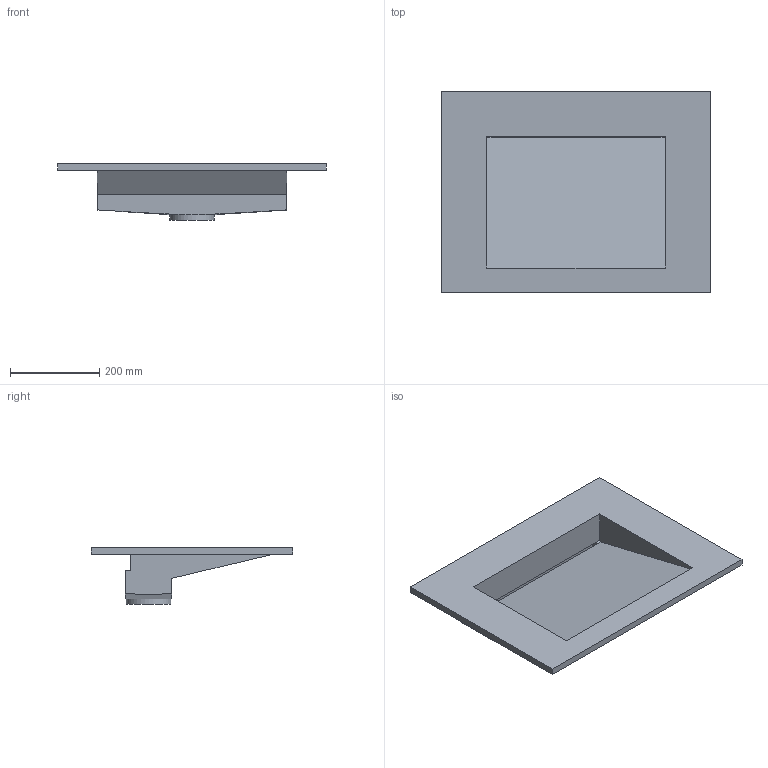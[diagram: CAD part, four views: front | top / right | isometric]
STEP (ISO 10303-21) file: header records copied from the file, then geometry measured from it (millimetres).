
FILE_DESCRIPTION(/* description */ (''),/* implementation_level */ '2;1');
FILE_NAME(/* name */ 'Cabinet Basin 600.stp',/* time_stamp */ '2025-10-25T10:47:11+08:00',/* author */ (''),/* organization */ (''),/* preprocessor_version */ 'ST-DEVELOPER v20',/* originating_system */ 'SIEMENS PLM Software NX2412.4001',/* authorisation */ '');
FILE_SCHEMA (('AUTOMOTIVE_DESIGN { 1 0 10303 214 3 1 1 1 }'));
Length unit declared in the file: millimetre
Products named in the file (1): Cabinet Basin 600
Bounding box: 600 x 450 x 127 mm (x, y, z)
Volume: 5061772.2 mm3; surface area: 829560.1 mm2
Topology: 1 solids, 1 shells, 48 faces, 126 edges, 81 vertices
Faces by surface type: plane 43, cone 3, cylinder 2
Full cylindrical faces by diameter (mm): 45 x1, 100 x1
Entity records: 1476 total; most frequent: CARTESIAN_POINT 311, ORIENTED_EDGE 238, DIRECTION 214, EDGE_CURVE 119, LINE 106, VECTOR 106, VERTEX_POINT 79, EDGE_LOOP 56
